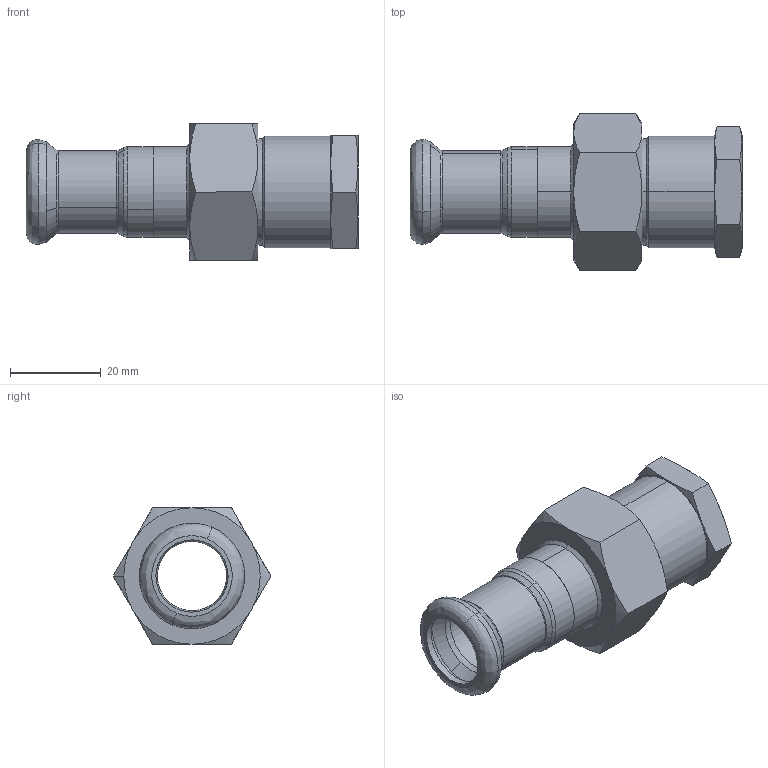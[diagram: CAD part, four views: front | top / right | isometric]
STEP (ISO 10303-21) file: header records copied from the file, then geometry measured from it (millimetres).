
FILE_DESCRIPTION (( 'STEP AP203' ), '1' );
FILE_NAME ('GDA5452.STEP', '2019-01-17T07:23:42', ( '' ), ( '' ), 'SwSTEP 2.0', 'SolidWorks 2015', '' );
FILE_SCHEMA (( 'CONFIG_CONTROL_DESIGN' ));
Length unit declared in the file: millimetre
Products named in the file (6): 18｡ﾁ_; 囀俋佪蛌遙諉芛0.75-0.5; GDA5452; ZL-Ⅰ-01×__1; T-¢ñ-01-15¡Á18; Imported_1
Assembly tree (5 placements, depth 2):
  GDA5452
    18｡ﾁ_
    T-¢ñ-01-15¡Á18
    ZL-Ⅰ-01×__1
    囀俋佪蛌遙諉芛0.75-0.5
    Imported_1
Bounding box: 73 x 34.64 x 30 mm (x, y, z)
Volume: 16837 mm3; surface area: 14332.7 mm2
Topology: 5 solids, 5 shells, 134 faces, 296 edges, 178 vertices
Faces by surface type: cone 50, cylinder 36, plane 28, bspline 20
Entity records: 4896 total; most frequent: CARTESIAN_POINT 1340, DIRECTION 658, ORIENTED_EDGE 592, EDGE_CURVE 296, AXIS2_PLACEMENT_3D 292, VERTEX_POINT 178, CIRCLE 170, EDGE_LOOP 150
